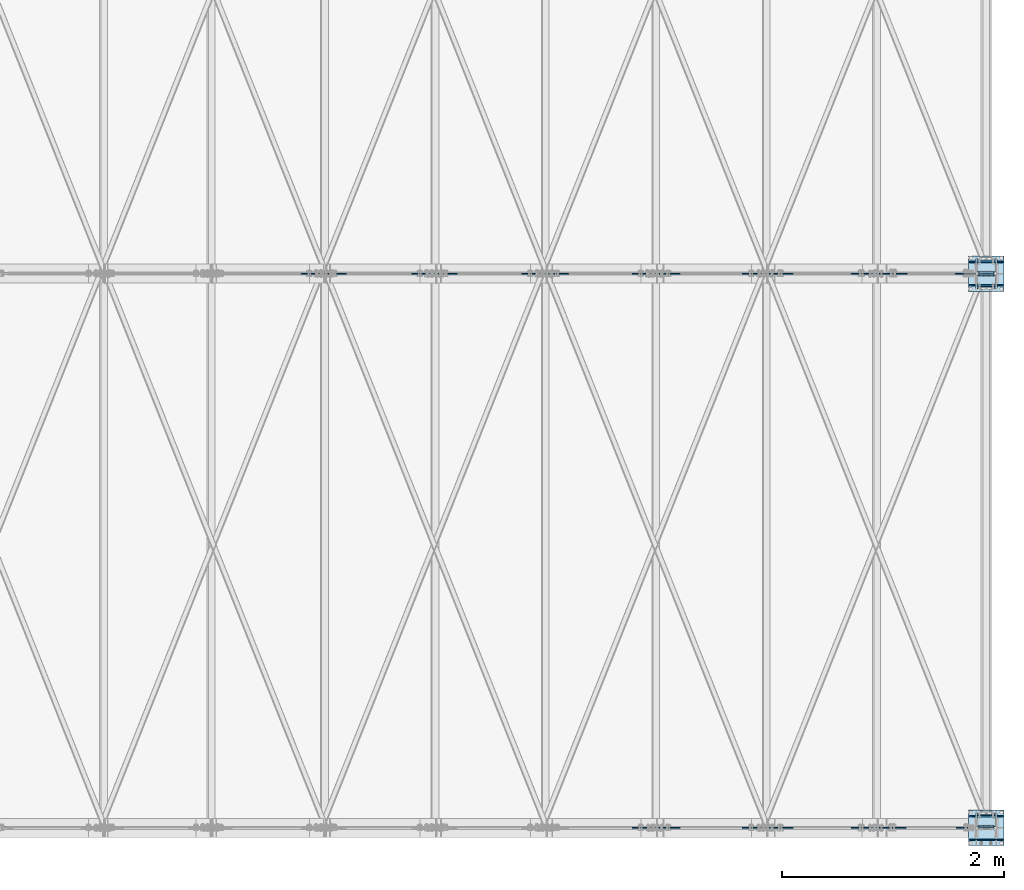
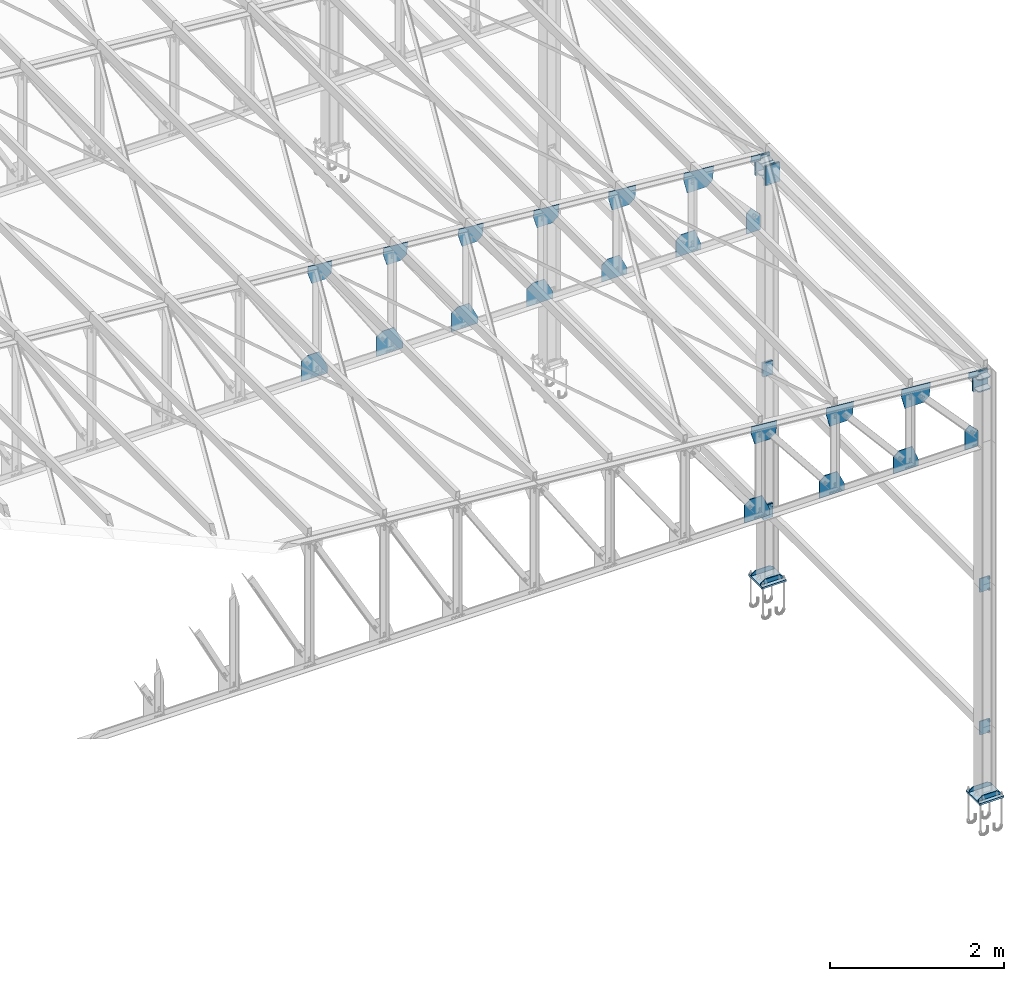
# One storey, part 6 of 251: 46 plates.
"""IFC4 building model written with IfcOpenShell, lengths in metres."""

from ifc_helpers import new_model, si_unit, frame, origin_with_axes, place, context, project, spatial, polyline, outline, extrude, type_object, element, save


model = new_model("IFC4")

# Units and contexts
model_context = context("Model", 3, precision=1e-05, world=origin_with_axes())
ifc_project = project(units=[si_unit("LENGTHUNIT", "METRE"), si_unit("AREAUNIT", "SQUARE_METRE"), si_unit("VOLUMEUNIT", "CUBIC_METRE"), si_unit("MASSUNIT", "GRAM", prefix="KILO"), si_unit("TIMEUNIT", "SECOND"), si_unit("PLANEANGLEUNIT", "RADIAN"), si_unit("SOLIDANGLEUNIT", "STERADIAN"), si_unit("THERMODYNAMICTEMPERATUREUNIT", "DEGREE_CELSIUS")], contexts=[model_context])

# Site, building, storey
placement_1 = place(None, origin_with_axes())
site = spatial("IfcSite", under=ifc_project, at=placement_1, Name="Italia", CompositionType="ELEMENT")
building = spatial("IfcBuilding", under=site, at=placement_1, Name="Deposito", CompositionType="ELEMENT")
storey = spatial("IfcBuildingStorey", under=building, at=placement_1, Name="Storey 0", CompositionType="ELEMENT", Elevation=0.0)

# Plates
plate_type_1 = type_object("IfcPlateType", Name="Collegamenti -001_-002 -002_-001 -002_-003 -003_-002 -003_-004 -004_-003 -004_-008 -008_-004 -009_-010 -010_-009 -010_-011 -011_-010 -011_-012 -012_-011 -012_-016 -016_-012", PredefinedType="SHEET")
placement_2 = place(placement_1, origin_with_axes())
plate_1_placement = place(placement_2, origin_with_axes())
element("IfcPlate", 1, at=plate_1_placement, inside=storey, type_object=plate_type_1, Name="Collegamenti -001_-002 -002_-001 -002_-003 -003_-002 -003_-004 -004_-003 -004_-008 -008_-004 -009_-010 -010_-009 -010_-011 -011_-010 -011_-012 -012_-011 -012_-016 -016_-012", context=model_context, shape_type="SweptSolid", body=[
    extrude(outline(polyline([(0.0, 0.0), (-0.132, 0.0), (-0.132, 0.192), (0.0, 0.192), (0.0, 0.0)])), frame((20.066, 0.018, 0.904), z_axis=(0.0, -1.0, 0.0), x_axis=(1.0, 0.0, 0.0)), (0.0, 0.0, 1.0), 0.015),
])
plate_type_2 = type_object("IfcPlateType", Name="Collegamenti -001_-002 -002_-001 -002_-003 -003_-002 -003_-004 -004_-003 -004_-008 -008_-004 -009_-010 -010_-009 -010_-011 -011_-010 -011_-012 -012_-011 -012_-016 -016_-012", PredefinedType="SHEET")
plate_2_placement = place(placement_2, origin_with_axes())
element("IfcPlate", 2, at=plate_2_placement, inside=storey, type_object=plate_type_2, Name="Collegamenti -001_-002 -002_-001 -002_-003 -003_-002 -003_-004 -004_-003 -004_-008 -008_-004 -009_-010 -010_-009 -010_-011 -011_-010 -011_-012 -012_-011 -012_-016 -016_-012", context=model_context, shape_type="SweptSolid", body=[
    extrude(outline(polyline([(0.0, 0.0), (-0.132, 0.0), (-0.132, 0.192), (0.0, 0.192), (0.0, 0.0)])), frame((19.934, 4.982, 0.904), z_axis=(0.0, 1.0, 0.0), x_axis=(-1.0, 0.0, 0.0)), (0.0, 0.0, 1.0), 0.0150003),
])
plate_type_3 = type_object("IfcPlateType", Name="Collegamenti -001_-002 -002_-001 -002_-003 -003_-002 -003_-004 -004_-003 -004_-008 -008_-004 -009_-010 -010_-009 -010_-011 -011_-010 -011_-012 -012_-011 -012_-016 -016_-012", PredefinedType="SHEET")
plate_3_placement = place(placement_2, origin_with_axes())
element("IfcPlate", 3, at=plate_3_placement, inside=storey, type_object=plate_type_3, Name="Collegamenti -001_-002 -002_-001 -002_-003 -003_-002 -003_-004 -004_-003 -004_-008 -008_-004 -009_-010 -010_-009 -010_-011 -011_-010 -011_-012 -012_-011 -012_-016 -016_-012", context=model_context, shape_type="SweptSolid", body=[
    extrude(outline(polyline([(0.0, 0.0), (-0.132, 0.0), (-0.132, 0.192), (0.0, 0.192), (0.0, 0.0)])), frame((20.066, 5.018, 0.904), z_axis=(0.0, -1.0, 0.0), x_axis=(1.0, 0.0, 0.0)), (0.0, 0.0, 1.0), 0.0150003),
])
plate_type_4 = type_object("IfcPlateType", Name="Collegamenti -001_-002 -002_-001 -002_-003 -003_-002 -003_-004 -004_-003 -004_-008 -008_-004 -009_-010 -010_-009 -010_-011 -011_-010 -011_-012 -012_-011 -012_-016 -016_-012", PredefinedType="SHEET")
plate_4_placement = place(placement_2, origin_with_axes())
element("IfcPlate", 4, at=plate_4_placement, inside=storey, type_object=plate_type_4, Name="Collegamenti -001_-002 -002_-001 -002_-003 -003_-002 -003_-004 -004_-003 -004_-008 -008_-004 -009_-010 -010_-009 -010_-011 -011_-010 -011_-012 -012_-011 -012_-016 -016_-012", context=model_context, shape_type="SweptSolid", body=[
    extrude(outline(polyline([(0.0, 0.0), (-0.132, 0.0), (-0.132, 0.192), (0.0, 0.192), (0.0, 0.0)])), frame((20.066, 0.018, 2.904), z_axis=(0.0, -1.0, 0.0), x_axis=(1.0, 0.0, 0.0)), (0.0, 0.0, 1.0), 0.015),
])
plate_type_5 = type_object("IfcPlateType", Name="Collegamenti -001_-002 -002_-001 -002_-003 -003_-002 -003_-004 -004_-003 -004_-008 -008_-004 -009_-010 -010_-009 -010_-011 -011_-010 -011_-012 -012_-011 -012_-016 -016_-012", PredefinedType="SHEET")
plate_5_placement = place(placement_2, origin_with_axes())
element("IfcPlate", 5, at=plate_5_placement, inside=storey, type_object=plate_type_5, Name="Collegamenti -001_-002 -002_-001 -002_-003 -003_-002 -003_-004 -004_-003 -004_-008 -008_-004 -009_-010 -010_-009 -010_-011 -011_-010 -011_-012 -012_-011 -012_-016 -016_-012", context=model_context, shape_type="SweptSolid", body=[
    extrude(outline(polyline([(0.0, 0.0), (-0.132, 0.0), (-0.132, 0.192), (0.0, 0.192), (0.0, 0.0)])), frame((19.934, 4.982, 2.904), z_axis=(0.0, 1.0, 0.0), x_axis=(-1.0, 0.0, 0.0)), (0.0, 0.0, 1.0), 0.0150003),
])
plate_type_6 = type_object("IfcPlateType", Name="Collegamenti -001_-002 -002_-001 -002_-003 -003_-002 -003_-004 -004_-003 -004_-008 -008_-004 -009_-010 -010_-009 -010_-011 -011_-010 -011_-012 -012_-011 -012_-016 -016_-012", PredefinedType="SHEET")
plate_6_placement = place(placement_2, origin_with_axes())
element("IfcPlate", 6, at=plate_6_placement, inside=storey, type_object=plate_type_6, Name="Collegamenti -001_-002 -002_-001 -002_-003 -003_-002 -003_-004 -004_-003 -004_-008 -008_-004 -009_-010 -010_-009 -010_-011 -011_-010 -011_-012 -012_-011 -012_-016 -016_-012", context=model_context, shape_type="SweptSolid", body=[
    extrude(outline(polyline([(0.0, 0.0), (-0.132, 0.0), (-0.132, 0.192), (0.0, 0.192), (0.0, 0.0)])), frame((20.066, 5.018, 2.904), z_axis=(0.0, -1.0, 0.0), x_axis=(1.0, 0.0, 0.0)), (0.0, 0.0, 1.0), 0.0150003),
])
plate_type_7 = type_object("IfcPlateType", Name="Collegamenti -064_-065 -065_-064 -065_-066 -066_-065 -066_-067 -067_-066 -067_-068 -068_-067", PredefinedType="SHEET")
plate_7_placement = place(placement_2, origin_with_axes())
element("IfcPlate", 7, at=plate_7_placement, inside=storey, type_object=plate_type_7, Name="Collegamenti -064_-065 -065_-064 -065_-066 -066_-065 -066_-067 -067_-066 -067_-068 -068_-067", context=model_context, shape_type="SweptSolid", body=[
    extrude(outline(polyline([(0.0, 0.0), (-0.189999, 0.0), (-0.189999, 0.266001), (0.0, 0.266001), (0.0, 0.0)])), frame((20.095, 0.115, 5.667), z_axis=(0.0, -1.0, 0.0), x_axis=(1.0, 0.0, 0.0)), (0.0, 0.0, 1.0), 0.015),
])
plate_type_8 = type_object("IfcPlateType", Name="Collegamenti -064_-065 -065_-064 -065_-066 -066_-065 -066_-067 -067_-066 -067_-068 -068_-067", PredefinedType="SHEET")
plate_8_placement = place(placement_2, origin_with_axes())
element("IfcPlate", 8, at=plate_8_placement, inside=storey, type_object=plate_type_8, Name="Collegamenti -064_-065 -065_-064 -065_-066 -066_-065 -066_-067 -067_-066 -067_-068 -068_-067", context=model_context, shape_type="SweptSolid", body=[
    extrude(outline(polyline([(0.0, 0.0), (-0.188999, 0.0), (-0.188999, 0.266001), (0.0, 0.266001), (0.0, 0.0)])), frame((20.0945, 0.13, 5.667), z_axis=(0.0, -1.0, 0.0), x_axis=(1.0, 0.0, 0.0)), (0.0, 0.0, 1.0), 0.015),
])
plate_type_9 = type_object("IfcPlateType", Name="Collegamenti -064_-065 -065_-064 -065_-066 -066_-065 -066_-067 -067_-066 -067_-068 -068_-067", PredefinedType="SHEET")
plate_9_placement = place(placement_2, origin_with_axes())
element("IfcPlate", 9, at=plate_9_placement, inside=storey, type_object=plate_type_9, Name="Collegamenti -064_-065 -065_-064 -065_-066 -066_-065 -066_-067 -067_-066 -067_-068 -068_-067", context=model_context, shape_type="SweptSolid", body=[
    extrude(outline(polyline([(0.0, 0.0), (-0.079, 0.0), (-0.097, 0.0179996), (-0.097, 0.151999), (-0.079, 0.169998), (0.0, 0.169998), (0.0, 0.0)])), frame((20.085, 0.1, 5.875), z_axis=(0.0, 0.0, 1.0), x_axis=(0.0, 1.0, 0.0)), (0.0, 0.0, 1.0), 0.0150003),
])
plate_type_10 = type_object("IfcPlateType", Name="Collegamenti -064_-065 -065_-064 -065_-066 -066_-065 -066_-067 -067_-066 -067_-068 -068_-067", PredefinedType="SHEET")
plate_10_placement = place(placement_2, origin_with_axes())
element("IfcPlate", 10, at=plate_10_placement, inside=storey, type_object=plate_type_10, Name="Collegamenti -064_-065 -065_-064 -065_-066 -066_-065 -066_-067 -067_-066 -067_-068 -068_-067", context=model_context, shape_type="SweptSolid", body=[
    extrude(outline(polyline([(0.0, 0.0), (-0.079, 0.0), (-0.097, 0.0179996), (-0.097, 0.151999), (-0.079, 0.169998), (0.0, 0.169998), (0.0, 0.0)])), frame((20.085, 0.1, 5.71), z_axis=(0.0, 0.0, 1.0), x_axis=(0.0, 1.0, 0.0)), (0.0, 0.0, 1.0), 0.0150003),
])
plate_type_11 = type_object("IfcPlateType", Name="Collegamenti -064_-065 -065_-064 -065_-066 -066_-065 -066_-067 -067_-066 -067_-068 -068_-067", PredefinedType="SHEET")
plate_11_placement = place(placement_2, origin_with_axes())
element("IfcPlate", 11, at=plate_11_placement, inside=storey, type_object=plate_type_11, Name="Collegamenti -064_-065 -065_-064 -065_-066 -066_-065 -066_-067 -067_-066 -067_-068 -068_-067", context=model_context, shape_type="SweptSolid", body=[
    extrude(outline(polyline([(0.0, 0.0), (-0.189999, 0.0), (-0.189999, 0.266001), (0.0, 0.266001), (0.0, 0.0)])), frame((19.905, 4.885, 5.667), z_axis=(0.0, 1.0, 0.0), x_axis=(-1.0, 0.0, 0.0)), (0.0, 0.0, 1.0), 0.0149999),
])
plate_type_12 = type_object("IfcPlateType", Name="Collegamenti -064_-065 -065_-064 -065_-066 -066_-065 -066_-067 -067_-066 -067_-068 -068_-067", PredefinedType="SHEET")
plate_12_placement = place(placement_2, origin_with_axes())
element("IfcPlate", 12, at=plate_12_placement, inside=storey, type_object=plate_type_12, Name="Collegamenti -064_-065 -065_-064 -065_-066 -066_-065 -066_-067 -067_-066 -067_-068 -068_-067", context=model_context, shape_type="SweptSolid", body=[
    extrude(outline(polyline([(0.0, 0.0), (-0.188999, 0.0), (-0.188999, 0.266001), (0.0, 0.266001), (0.0, 0.0)])), frame((19.9055, 4.87, 5.667), z_axis=(0.0, 1.0, 0.0), x_axis=(-1.0, 0.0, 0.0)), (0.0, 0.0, 1.0), 0.0150003),
])
plate_type_13 = type_object("IfcPlateType", Name="Collegamenti -064_-065 -065_-064 -065_-066 -066_-065 -066_-067 -067_-066 -067_-068 -068_-067", PredefinedType="SHEET")
plate_13_placement = place(placement_2, origin_with_axes())
element("IfcPlate", 13, at=plate_13_placement, inside=storey, type_object=plate_type_13, Name="Collegamenti -064_-065 -065_-064 -065_-066 -066_-065 -066_-067 -067_-066 -067_-068 -068_-067", context=model_context, shape_type="SweptSolid", body=[
    extrude(outline(polyline([(0.0, 0.0), (0.079, 0.0), (0.0970001, -0.0179996), (0.0970001, -0.151999), (0.079, -0.169998), (0.0, -0.169998), (0.0, 0.0)])), frame((19.915, 4.9, 5.875), z_axis=(0.0, 0.0, 1.0), x_axis=(0.0, 1.0, 0.0)), (0.0, 0.0, 1.0), 0.0150003),
])
plate_type_14 = type_object("IfcPlateType", Name="Collegamenti -064_-065 -065_-064 -065_-066 -066_-065 -066_-067 -067_-066 -067_-068 -068_-067", PredefinedType="SHEET")
plate_14_placement = place(placement_2, origin_with_axes())
element("IfcPlate", 14, at=plate_14_placement, inside=storey, type_object=plate_type_14, Name="Collegamenti -064_-065 -065_-064 -065_-066 -066_-065 -066_-067 -067_-066 -067_-068 -068_-067", context=model_context, shape_type="SweptSolid", body=[
    extrude(outline(polyline([(0.0, 0.0), (0.079, 0.0), (0.0970001, -0.0179996), (0.0970001, -0.151999), (0.079, -0.169998), (0.0, -0.169998), (0.0, 0.0)])), frame((19.915, 4.9, 5.71), z_axis=(0.0, 0.0, 1.0), x_axis=(0.0, 1.0, 0.0)), (0.0, 0.0, 1.0), 0.0150003),
])
plate_type_15 = type_object("IfcPlateType", Name="Collegamenti -064_-065 -065_-064 -065_-066 -066_-065 -066_-067 -067_-066 -067_-068 -068_-067", PredefinedType="SHEET")
plate_15_placement = place(placement_2, origin_with_axes())
element("IfcPlate", 15, at=plate_15_placement, inside=storey, type_object=plate_type_15, Name="Collegamenti -064_-065 -065_-064 -065_-066 -066_-065 -066_-067 -067_-066 -067_-068 -068_-067", context=model_context, shape_type="SweptSolid", body=[
    extrude(outline(polyline([(0.0, 0.0), (-0.189999, 0.0), (-0.189999, 0.266001), (0.0, 0.266001), (0.0, 0.0)])), frame((20.095, 5.115, 5.667), z_axis=(0.0, -1.0, 0.0), x_axis=(1.0, 0.0, 0.0)), (0.0, 0.0, 1.0), 0.0149999),
])
plate_type_16 = type_object("IfcPlateType", Name="Collegamenti -064_-065 -065_-064 -065_-066 -066_-065 -066_-067 -067_-066 -067_-068 -068_-067", PredefinedType="SHEET")
plate_16_placement = place(placement_2, origin_with_axes())
element("IfcPlate", 16, at=plate_16_placement, inside=storey, type_object=plate_type_16, Name="Collegamenti -064_-065 -065_-064 -065_-066 -066_-065 -066_-067 -067_-066 -067_-068 -068_-067", context=model_context, shape_type="SweptSolid", body=[
    extrude(outline(polyline([(0.0, 0.0), (-0.188999, 0.0), (-0.188999, 0.266001), (0.0, 0.266001), (0.0, 0.0)])), frame((20.0945, 5.13, 5.667), z_axis=(0.0, -1.0, 0.0), x_axis=(1.0, 0.0, 0.0)), (0.0, 0.0, 1.0), 0.0150003),
])
plate_type_17 = type_object("IfcPlateType", Name="Collegamenti -064_-065 -065_-064 -065_-066 -066_-065 -066_-067 -067_-066 -067_-068 -068_-067", PredefinedType="SHEET")
plate_17_placement = place(placement_2, origin_with_axes())
element("IfcPlate", 17, at=plate_17_placement, inside=storey, type_object=plate_type_17, Name="Collegamenti -064_-065 -065_-064 -065_-066 -066_-065 -066_-067 -067_-066 -067_-068 -068_-067", context=model_context, shape_type="SweptSolid", body=[
    extrude(outline(polyline([(0.0, 0.0), (-0.079, 0.0), (-0.0970001, 0.0179996), (-0.0970001, 0.151999), (-0.079, 0.169998), (0.0, 0.169998), (0.0, 0.0)])), frame((20.085, 5.1, 5.875), z_axis=(0.0, 0.0, 1.0), x_axis=(0.0, 1.0, 0.0)), (0.0, 0.0, 1.0), 0.0150003),
])
plate_type_18 = type_object("IfcPlateType", Name="Collegamenti -064_-065 -065_-064 -065_-066 -066_-065 -066_-067 -067_-066 -067_-068 -068_-067", PredefinedType="SHEET")
plate_18_placement = place(placement_2, origin_with_axes())
element("IfcPlate", 18, at=plate_18_placement, inside=storey, type_object=plate_type_18, Name="Collegamenti -064_-065 -065_-064 -065_-066 -066_-065 -066_-067 -067_-066 -067_-068 -068_-067", context=model_context, shape_type="SweptSolid", body=[
    extrude(outline(polyline([(0.0, 0.0), (-0.079, 0.0), (-0.0970001, 0.0179996), (-0.0970001, 0.151999), (-0.079, 0.169998), (0.0, 0.169998), (0.0, 0.0)])), frame((20.085, 5.1, 5.71), z_axis=(0.0, 0.0, 1.0), x_axis=(0.0, 1.0, 0.0)), (0.0, 0.0, 1.0), 0.0150003),
])
plate_type_19 = type_object("IfcPlateType", Name="Collegamenti 0014_-001 0016_-054 0018_-056 0032_-002 0033_-058 0047_-003 0048_-060 0062_-004 0063_-005 0079_-008", PredefinedType="SHEET")
plate_19_placement = place(placement_2, origin_with_axes())
element("IfcPlate", 19, at=plate_19_placement, inside=storey, type_object=plate_type_19, Name="Collegamenti 0014_-001 0016_-054 0018_-056 0032_-002 0033_-058 0047_-003 0048_-060 0062_-004 0063_-005 0079_-008", context=model_context, shape_type="SweptSolid", body=[
    extrude(outline(polyline([(0.0, 0.0), (0.32, 0.0), (0.32, -0.32), (0.0, -0.32), (0.0, 0.0)])), frame((20.16, -0.16, 0.075), z_axis=(0.0, 0.0, -1.0), x_axis=(0.0, 1.0, 0.0)), (0.0, 0.0, 1.0), 0.025),
])
plate_type_20 = type_object("IfcPlateType", Name="Collegamenti 0014_-001 0016_-054 0018_-056 0032_-002 0033_-058 0047_-003 0048_-060 0062_-004 0063_-005 0079_-008", PredefinedType="SHEET")
plate_20_placement = place(placement_2, origin_with_axes())
element("IfcPlate", 20, at=plate_20_placement, inside=storey, type_object=plate_type_20, Name="Collegamenti 0014_-001 0016_-054 0018_-056 0032_-002 0033_-058 0047_-003 0048_-060 0062_-004 0063_-005 0079_-008", context=model_context, shape_type="SweptSolid", body=[
    extrude(outline(polyline([(0.0, 0.0), (0.0550003, 0.04), (0.244999, 0.04), (0.299999, 0.0), (0.299999, -0.02), (0.0, -0.02), (0.0, 0.0)])), frame((20.15, 0.1, 0.095), z_axis=(0.0, 1.0, 0.0), x_axis=(-1.0, 0.0, 0.0)), (0.0, 0.0, 1.0), 0.01),
])
plate_type_21 = type_object("IfcPlateType", Name="Collegamenti 0014_-001 0016_-054 0018_-056 0032_-002 0033_-058 0047_-003 0048_-060 0062_-004 0063_-005 0079_-008", PredefinedType="SHEET")
plate_21_placement = place(placement_2, origin_with_axes())
element("IfcPlate", 21, at=plate_21_placement, inside=storey, type_object=plate_type_21, Name="Collegamenti 0014_-001 0016_-054 0018_-056 0032_-002 0033_-058 0047_-003 0048_-060 0062_-004 0063_-005 0079_-008", context=model_context, shape_type="SweptSolid", body=[
    extrude(outline(polyline([(0.0, 0.0), (0.0550003, 0.04), (0.244999, 0.04), (0.299999, 0.0), (0.299999, -0.02), (0.0, -0.02), (0.0, 0.0)])), frame((20.15, -0.11, 0.095), z_axis=(0.0, 1.0, 0.0), x_axis=(-1.0, 0.0, 0.0)), (0.0, 0.0, 1.0), 0.01),
])
plate_type_22 = type_object("IfcPlateType", Name="Collegamenti 0014_-001 0016_-054 0018_-056 0032_-002 0033_-058 0047_-003 0048_-060 0062_-004 0063_-005 0079_-008", PredefinedType="SHEET")
plate_22_placement = place(placement_2, origin_with_axes())
element("IfcPlate", 22, at=plate_22_placement, inside=storey, type_object=plate_type_22, Name="Collegamenti 0014_-001 0016_-054 0018_-056 0032_-002 0033_-058 0047_-003 0048_-060 0062_-004 0063_-005 0079_-008", context=model_context, shape_type="SweptSolid", body=[
    extrude(outline(polyline([(0.0, 0.0), (0.32, 0.0), (0.32, -0.32), (0.0, -0.32), (0.0, 0.0)])), frame((20.16, 4.84, 0.075), z_axis=(0.0, 0.0, -1.0), x_axis=(0.0, 1.0, 0.0)), (0.0, 0.0, 1.0), 0.025),
])
plate_type_23 = type_object("IfcPlateType", Name="Collegamenti 0014_-001 0016_-054 0018_-056 0032_-002 0033_-058 0047_-003 0048_-060 0062_-004 0063_-005 0079_-008", PredefinedType="SHEET")
plate_23_placement = place(placement_2, origin_with_axes())
element("IfcPlate", 23, at=plate_23_placement, inside=storey, type_object=plate_type_23, Name="Collegamenti 0014_-001 0016_-054 0018_-056 0032_-002 0033_-058 0047_-003 0048_-060 0062_-004 0063_-005 0079_-008", context=model_context, shape_type="SweptSolid", body=[
    extrude(outline(polyline([(0.0, 0.0), (0.0550003, 0.04), (0.244999, 0.04), (0.299999, 0.0), (0.299999, -0.02), (0.0, -0.02), (0.0, 0.0)])), frame((20.15, 5.1, 0.095), z_axis=(0.0, 1.0, 0.0), x_axis=(-1.0, 0.0, 0.0)), (0.0, 0.0, 1.0), 0.0100002),
])
plate_type_24 = type_object("IfcPlateType", Name="Collegamenti 0014_-001 0016_-054 0018_-056 0032_-002 0033_-058 0047_-003 0048_-060 0062_-004 0063_-005 0079_-008", PredefinedType="SHEET")
plate_24_placement = place(placement_2, origin_with_axes())
element("IfcPlate", 24, at=plate_24_placement, inside=storey, type_object=plate_type_24, Name="Collegamenti 0014_-001 0016_-054 0018_-056 0032_-002 0033_-058 0047_-003 0048_-060 0062_-004 0063_-005 0079_-008", context=model_context, shape_type="SweptSolid", body=[
    extrude(outline(polyline([(0.0, 0.0), (0.0550003, 0.04), (0.244999, 0.04), (0.299999, 0.0), (0.299999, -0.02), (0.0, -0.02), (0.0, 0.0)])), frame((20.15, 4.89, 0.095), z_axis=(0.0, 1.0, 0.0), x_axis=(-1.0, 0.0, 0.0)), (0.0, 0.0, 1.0), 0.0100002),
])
plate_type_25 = type_object("IfcPlateType", Name="Reticolare 2", PredefinedType="SHEET")
plate_25_placement = place(placement_2, origin_with_axes())
element("IfcPlate", 25, at=plate_25_placement, inside=storey, type_object=plate_type_25, Name="Reticolare 2", context=model_context, shape_type="SweptSolid", body=[
    extrude(outline(polyline([(0.0, 0.0), (0.0663548, 0.0608029), (0.173689, -0.0563316), (0.173689, -0.267609), (0.0, -0.267609), (0.0, 0.0)])), frame((19.7313, 0.005, 5.24509), z_axis=(0.0, -1.0, 0.0), x_axis=(1.0, 0.0, 0.0)), (0.0, 0.0, 1.0), 0.01),
])
plate_type_26 = type_object("IfcPlateType", Name="Reticolare 2", PredefinedType="SHEET")
plate_26_placement = place(placement_2, origin_with_axes())
element("IfcPlate", 26, at=plate_26_placement, inside=storey, type_object=plate_type_26, Name="Reticolare 2", context=model_context, shape_type="SweptSolid", body=[
    extrude(outline(polyline([(0.0, 0.0), (-0.334877, 0.0), (-0.334877, 0.246499), (-0.254442, 0.305914), (-0.0964832, 0.305914), (0.0, 0.0899997), (0.0, 0.0)])), frame((17.1404, 0.005, 4.97748), z_axis=(0.0, -1.0, 0.0), x_axis=(1.0, 0.0, 0.0)), (0.0, 0.0, 1.0), 0.01),
])
plate_type_27 = type_object("IfcPlateType", Name="Reticolare 2", PredefinedType="SHEET")
plate_27_placement = place(placement_2, origin_with_axes())
element("IfcPlate", 27, at=plate_27_placement, inside=storey, type_object=plate_type_27, Name="Reticolare 2", context=model_context, shape_type="SweptSolid", body=[
    extrude(outline(polyline([(0.0, 0.0), (-0.335958, 0.0), (-0.335958, 0.232118), (-0.257479, 0.294094), (-0.0964832, 0.294094), (0.0, 0.0899997), (0.0, 0.0)])), frame((18.1366, 0.005, 4.97748), z_axis=(0.0, -1.0, 0.0), x_axis=(1.0, 0.0, 0.0)), (0.0, 0.0, 1.0), 0.01),
])
plate_type_28 = type_object("IfcPlateType", Name="Reticolare 2", PredefinedType="SHEET")
plate_28_placement = place(placement_2, origin_with_axes())
element("IfcPlate", 28, at=plate_28_placement, inside=storey, type_object=plate_type_28, Name="Reticolare 2", context=model_context, shape_type="SweptSolid", body=[
    extrude(outline(polyline([(0.0, 0.0), (-0.330614, 0.0), (-0.330614, 0.231134), (-0.254358, 0.295825), (-0.0784836, 0.295825), (0.0, 0.0899997), (0.0, 0.0)])), frame((19.1148, 0.005, 4.97748), z_axis=(0.0, -1.0, 0.0), x_axis=(1.0, 0.0, 0.0)), (0.0, 0.0, 1.0), 0.01),
])
plate_type_29 = type_object("IfcPlateType", Name="Reticolare 2", PredefinedType="SHEET")
plate_29_placement = place(placement_2, origin_with_axes())
element("IfcPlate", 29, at=plate_29_placement, inside=storey, type_object=plate_type_29, Name="Reticolare 2", context=model_context, shape_type="SweptSolid", body=[
    extrude(outline(polyline([(0.0, 0.0), (0.00697327, 0.0796957), (0.12484, 0.0693836), (0.12484, -0.010922), (0.11484, -0.010922), (0.0, 0.0)])), frame((19.7802, 0.005, 5.96153), z_axis=(0.0, -1.0, 0.0), x_axis=(1.0, 0.0, 0.0)), (0.0, 0.0, 1.0), 0.01),
])
plate_type_30 = type_object("IfcPlateType", Name="Reticolare 2", PredefinedType="SHEET")
plate_30_placement = place(placement_2, origin_with_axes())
element("IfcPlate", 30, at=plate_30_placement, inside=storey, type_object=plate_type_30, Name="Reticolare 2", context=model_context, shape_type="SweptSolid", body=[
    extrude(outline(polyline([(0.0, 0.0), (0.381252, -0.0333552), (0.365566, -0.212633), (0.291838, -0.280191), (0.0411301, -0.280191), (-0.00784683, -0.0896573), (0.0, 0.0)])), frame((18.8952, 0.005, 6.11926), z_axis=(0.0, -1.0, 0.0), x_axis=(1.0, 0.0, 0.0)), (0.0, 0.0, 1.0), 0.01),
])
plate_type_31 = type_object("IfcPlateType", Name="Reticolare 2", PredefinedType="SHEET")
plate_31_placement = place(placement_2, origin_with_axes())
element("IfcPlate", 31, at=plate_31_placement, inside=storey, type_object=plate_type_31, Name="Reticolare 2", context=model_context, shape_type="SweptSolid", body=[
    extrude(outline(polyline([(0.0, 0.0), (0.358372, -0.031353), (0.343235, -0.204358), (0.266979, -0.269049), (0.041132, -0.269049), (-0.00784302, -0.0896573), (0.0, 0.0)])), frame((17.899, 0.005, 6.20642), z_axis=(0.0, -1.0, 0.0), x_axis=(1.0, 0.0, 0.0)), (0.0, 0.0, 1.0), 0.01),
])
plate_type_32 = type_object("IfcPlateType", Name="Reticolare 2", PredefinedType="SHEET")
plate_32_placement = place(placement_2, origin_with_axes())
element("IfcPlate", 32, at=plate_32_placement, inside=storey, type_object=plate_type_32, Name="Reticolare 2", context=model_context, shape_type="SweptSolid", body=[
    extrude(outline(polyline([(0.0, 0.0), (0.335739, -0.0293727), (0.321447, -0.192726), (0.242966, -0.254702), (0.0411301, -0.254702), (-0.00784683, -0.0896568), (0.0, 0.0)])), frame((16.9028, 0.005, 6.29357), z_axis=(0.0, -1.0, 0.0), x_axis=(1.0, 0.0, 0.0)), (0.0, 0.0, 1.0), 0.01),
])
plate_type_33 = type_object("IfcPlateType", Name="Reticolare 3", PredefinedType="SHEET")
plate_33_placement = place(placement_2, origin_with_axes())
element("IfcPlate", 33, at=plate_33_placement, inside=storey, type_object=plate_type_33, Name="Reticolare 3", context=model_context, shape_type="SweptSolid", body=[
    extrude(outline(polyline([(0.0, 0.0), (0.0663567, 0.0608029), (0.185175, -0.0688653), (0.185175, -0.280142), (0.0, -0.280142), (0.0, 0.0)])), frame((19.7198, 5.005, 5.25763), z_axis=(0.0, -1.0, 0.0), x_axis=(1.0, 0.0, 0.0)), (0.0, 0.0, 1.0), 0.0100002),
])
plate_type_34 = type_object("IfcPlateType", Name="Reticolare 3", PredefinedType="SHEET")
plate_34_placement = place(placement_2, origin_with_axes())
element("IfcPlate", 34, at=plate_34_placement, inside=storey, type_object=plate_type_34, Name="Reticolare 3", context=model_context, shape_type="SweptSolid", body=[
    extrude(outline(polyline([(0.0, 0.0), (-0.347019, 0.0), (-0.347019, 0.281458), (-0.262612, 0.33508), (-0.111483, 0.33508), (0.0, 0.0899997), (0.0, 0.0)])), frame((14.1668, 5.005, 4.97748), z_axis=(0.0, -1.0, 0.0), x_axis=(1.0, 0.0, 0.0)), (0.0, 0.0, 1.0), 0.0100002),
])
plate_type_35 = type_object("IfcPlateType", Name="Reticolare 3", PredefinedType="SHEET")
plate_35_placement = place(placement_2, origin_with_axes())
element("IfcPlate", 35, at=plate_35_placement, inside=storey, type_object=plate_type_35, Name="Reticolare 3", context=model_context, shape_type="SweptSolid", body=[
    extrude(outline(polyline([(0.0, 0.0), (-0.347613, 0.0), (-0.347613, 0.27439), (-0.263927, 0.329132), (-0.111483, 0.329132), (0.0, 0.0899997), (0.0, 0.0)])), frame((15.163, 5.005, 4.97748), z_axis=(0.0, -1.0, 0.0), x_axis=(1.0, 0.0, 0.0)), (0.0, 0.0, 1.0), 0.0100002),
])
plate_type_36 = type_object("IfcPlateType", Name="Reticolare 3", PredefinedType="SHEET")
plate_36_placement = place(placement_2, origin_with_axes())
element("IfcPlate", 36, at=plate_36_placement, inside=storey, type_object=plate_type_36, Name="Reticolare 3", context=model_context, shape_type="SweptSolid", body=[
    extrude(outline(polyline([(0.0, 0.0), (-0.348755, 0.0), (-0.348755, 0.260579), (-0.266594, 0.317585), (-0.111485, 0.317585), (0.0, 0.0899997), (0.0, 0.0)])), frame((16.1592, 5.005, 4.97748), z_axis=(0.0, -1.0, 0.0), x_axis=(1.0, 0.0, 0.0)), (0.0, 0.0, 1.0), 0.0100002),
])
plate_type_37 = type_object("IfcPlateType", Name="Reticolare 3", PredefinedType="SHEET")
plate_37_placement = place(placement_2, origin_with_axes())
element("IfcPlate", 37, at=plate_37_placement, inside=storey, type_object=plate_type_37, Name="Reticolare 3", context=model_context, shape_type="SweptSolid", body=[
    extrude(outline(polyline([(0.0, 0.0), (-0.349876, 0.0), (-0.349876, 0.246499), (-0.269442, 0.305914), (-0.111483, 0.305914), (0.0, 0.0899997), (0.0, 0.0)])), frame((17.1554, 5.005, 4.97748), z_axis=(0.0, -1.0, 0.0), x_axis=(1.0, 0.0, 0.0)), (0.0, 0.0, 1.0), 0.0100002),
])
plate_type_38 = type_object("IfcPlateType", Name="Reticolare 3", PredefinedType="SHEET")
plate_38_placement = place(placement_2, origin_with_axes())
element("IfcPlate", 38, at=plate_38_placement, inside=storey, type_object=plate_type_38, Name="Reticolare 3", context=model_context, shape_type="SweptSolid", body=[
    extrude(outline(polyline([(0.0, 0.0), (-0.335958, 0.0), (-0.335958, 0.232118), (-0.257479, 0.294094), (-0.0964832, 0.294094), (0.0, 0.0899997), (0.0, 0.0)])), frame((18.1366, 5.005, 4.97748), z_axis=(0.0, -1.0, 0.0), x_axis=(1.0, 0.0, 0.0)), (0.0, 0.0, 1.0), 0.0100002),
])
plate_type_39 = type_object("IfcPlateType", Name="Reticolare 3", PredefinedType="SHEET")
plate_39_placement = place(placement_2, origin_with_axes())
element("IfcPlate", 39, at=plate_39_placement, inside=storey, type_object=plate_type_39, Name="Reticolare 3", context=model_context, shape_type="SweptSolid", body=[
    extrude(outline(polyline([(0.0, 0.0), (-0.330614, 0.0), (-0.330614, 0.231134), (-0.254358, 0.295825), (-0.0784836, 0.295825), (0.0, 0.0899997), (0.0, 0.0)])), frame((19.1148, 5.005, 4.97748), z_axis=(0.0, -1.0, 0.0), x_axis=(1.0, 0.0, 0.0)), (0.0, 0.0, 1.0), 0.0100002),
])
plate_type_40 = type_object("IfcPlateType", Name="Reticolare 3", PredefinedType="SHEET")
plate_40_placement = place(placement_2, origin_with_axes())
element("IfcPlate", 40, at=plate_40_placement, inside=storey, type_object=plate_type_40, Name="Reticolare 3", context=model_context, shape_type="SweptSolid", body=[
    extrude(outline(polyline([(0.0, 0.0), (0.00697327, 0.0796957), (0.12484, 0.0693836), (0.12484, -0.010922), (0.11484, -0.010922), (0.0, 0.0)])), frame((19.7802, 5.005, 5.96153), z_axis=(0.0, -1.0, 0.0), x_axis=(1.0, 0.0, 0.0)), (0.0, 0.0, 1.0), 0.0100002),
])
plate_type_41 = type_object("IfcPlateType", Name="Reticolare 3", PredefinedType="SHEET")
plate_41_placement = place(placement_2, origin_with_axes())
element("IfcPlate", 41, at=plate_41_placement, inside=storey, type_object=plate_type_41, Name="Reticolare 3", context=model_context, shape_type="SweptSolid", body=[
    extrude(outline(polyline([(0.0, 0.0), (-0.0737286, -0.0675588), (-0.335922, -0.0675588), (-0.384899, 0.135509), (-0.377052, 0.225166), (0.0166855, 0.190719), (0.0, 0.0)])), frame((19.2722, 5.005, 5.89409), z_axis=(0.0, -1.0, 0.0), x_axis=(1.0, 0.0, 0.0)), (0.0, 0.0, 1.0), 0.0100002),
])
plate_type_42 = type_object("IfcPlateType", Name="Reticolare 3", PredefinedType="SHEET")
plate_42_placement = place(placement_2, origin_with_axes())
element("IfcPlate", 42, at=plate_42_placement, inside=storey, type_object=plate_type_42, Name="Reticolare 3", context=model_context, shape_type="SweptSolid", body=[
    extrude(outline(polyline([(0.0, 0.0), (-0.0762558, -0.0646911), (-0.302103, -0.0646911), (-0.351078, 0.1147), (-0.343235, 0.204358), (0.0151367, 0.173005), (0.0, 0.0)])), frame((18.2422, 5.005, 6.00206), z_axis=(0.0, -1.0, 0.0), x_axis=(1.0, 0.0, 0.0)), (0.0, 0.0, 1.0), 0.0100002),
])
plate_type_43 = type_object("IfcPlateType", Name="Reticolare 3", PredefinedType="SHEET")
plate_43_placement = place(placement_2, origin_with_axes())
element("IfcPlate", 43, at=plate_43_placement, inside=storey, type_object=plate_type_43, Name="Reticolare 3", context=model_context, shape_type="SweptSolid", body=[
    extrude(outline(polyline([(0.0, 0.0), (-0.0784817, -0.061976), (-0.280317, -0.061976), (-0.329294, 0.103069), (-0.321447, 0.192726), (0.0142918, 0.163353), (0.0, 0.0)])), frame((17.2242, 5.005, 6.10085), z_axis=(0.0, -1.0, 0.0), x_axis=(1.0, 0.0, 0.0)), (0.0, 0.0, 1.0), 0.0100002),
])
plate_type_44 = type_object("IfcPlateType", Name="Reticolare 3", PredefinedType="SHEET")
plate_44_placement = place(placement_2, origin_with_axes())
element("IfcPlate", 44, at=plate_44_placement, inside=storey, type_object=plate_type_44, Name="Reticolare 3", context=model_context, shape_type="SweptSolid", body=[
    extrude(outline(polyline([(0.0, 0.0), (-0.0804348, -0.0594163), (-0.271415, -0.0594163), (-0.320392, 0.104949), (-0.312547, 0.194606), (0.0145226, 0.165991), (0.0, 0.0)])), frame((16.2192, 5.005, 6.18612), z_axis=(0.0, -1.0, 0.0), x_axis=(1.0, 0.0, 0.0)), (0.0, 0.0, 1.0), 0.0100002),
])
plate_type_45 = type_object("IfcPlateType", Name="Reticolare 3", PredefinedType="SHEET")
plate_45_placement = place(placement_2, origin_with_axes())
element("IfcPlate", 45, at=plate_45_placement, inside=storey, type_object=plate_type_45, Name="Reticolare 3", context=model_context, shape_type="SweptSolid", body=[
    extrude(outline(polyline([(0.0, 0.0), (-0.0821609, -0.0570059), (-0.263537, -0.0570059), (-0.312513, 0.106635), (-0.304669, 0.196292), (0.0147285, 0.168348), (0.0, 0.0)])), frame((15.2151, 5.005, 6.27159), z_axis=(0.0, -1.0, 0.0), x_axis=(1.0, 0.0, 0.0)), (0.0, 0.0, 1.0), 0.0100002),
])
plate_type_46 = type_object("IfcPlateType", Name="Reticolare 3", PredefinedType="SHEET")
plate_46_placement = place(placement_2, origin_with_axes())
element("IfcPlate", 46, at=plate_46_placement, inside=storey, type_object=plate_type_46, Name="Reticolare 3", context=model_context, shape_type="SweptSolid", body=[
    extrude(outline(polyline([(0.0, 0.0), (-0.0149136, -0.170458), (-0.0985994, -0.2252), (-0.271422, -0.2252), (-0.325274, -0.0621495), (-0.317634, 0.0275254), (-0.196971, 0.0172324), (0.0, 0.0)])), frame((14.2268, 5.005, 6.5277), z_axis=(0.0, -1.0, 0.0), x_axis=(1.0, 0.0, 0.0)), (0.0, 0.0, 1.0), 0.0100002),
])

save(model, "model.ifc")
